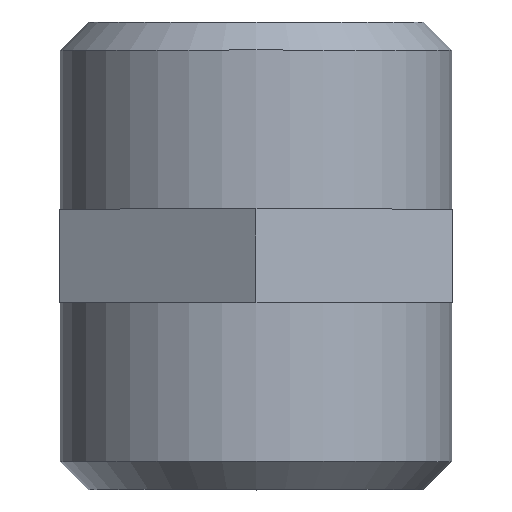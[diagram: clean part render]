
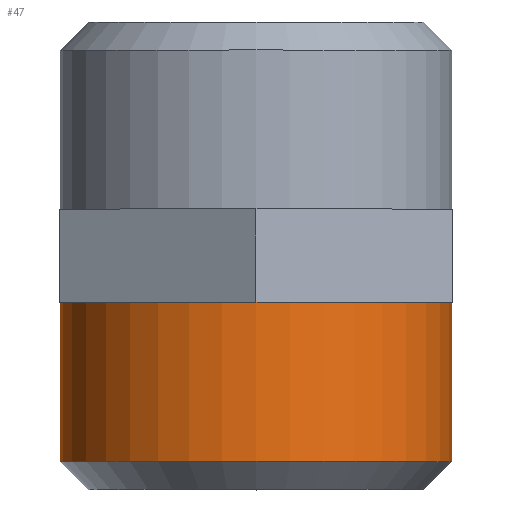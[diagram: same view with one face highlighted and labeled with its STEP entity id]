
A CAD part, top view. The second image highlights one B-rep face of the part: STEP entity #47.
In plain terms, the highlighted cylindrical face has radius 10.477 mm (diameter 20.955 mm), a full revolution.
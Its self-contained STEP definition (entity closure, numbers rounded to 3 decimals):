
#47=ADVANCED_FACE('',(#88,#90),#92,.T.);
#88=FACE_OUTER_BOUND('',#89,.T.);
#89=EDGE_LOOP('',(#208));
#90=FACE_OUTER_BOUND('',#91,.T.);
#91=EDGE_LOOP('',(#209));
#92=CYLINDRICAL_SURFACE('',#93,10.478);
#93=AXIS2_PLACEMENT_3D('',#94,#95,#96);
#94=CARTESIAN_POINT('',(0.,-10.,0.));
#95=DIRECTION('',(0.,1.,0.));
#96=DIRECTION('',(-1.,0.,0.));
#208=ORIENTED_EDGE('',*,*,#264,.T.);
#209=ORIENTED_EDGE('',*,*,#265,.T.);
#264=EDGE_CURVE('',#298,#298,#299,.F.);
#265=EDGE_CURVE('',#300,#300,#301,.T.);
#298=VERTEX_POINT('',#366);
#299=CIRCLE('',#367,10.478);
#300=VERTEX_POINT('',#371);
#301=CIRCLE('',#372,10.478);
#366=CARTESIAN_POINT('',(-10.478,0.,0.));
#367=AXIS2_PLACEMENT_3D('',#368,#369,#370);
#368=CARTESIAN_POINT('',(0.,0.,0.));
#369=DIRECTION('',(0.,1.,0.));
#370=DIRECTION('',(-1.,0.,0.));
#371=CARTESIAN_POINT('',(-10.478,-8.5,0.));
#372=AXIS2_PLACEMENT_3D('',#373,#374,#375);
#373=CARTESIAN_POINT('',(0.,-8.5,0.));
#374=DIRECTION('',(0.,1.,0.));
#375=DIRECTION('',(-1.,0.,0.));
